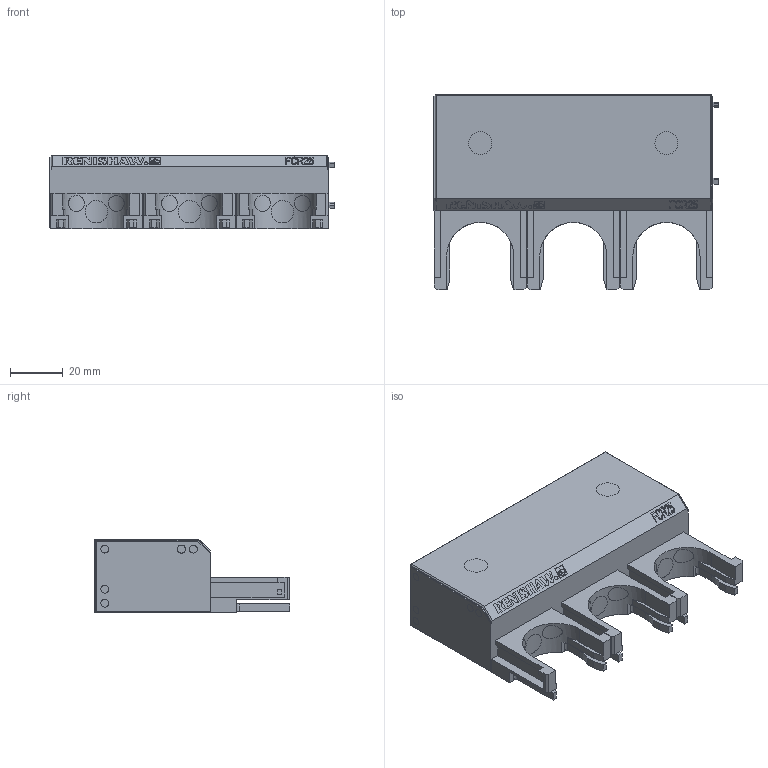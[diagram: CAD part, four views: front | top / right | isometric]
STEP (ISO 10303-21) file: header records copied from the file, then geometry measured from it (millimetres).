
FILE_DESCRIPTION(/* description */ (''),/* implementation_level */ '2;1');
FILE_NAME(/* name */ 'LA-2237-0928#-A.stp',/* time_stamp */ '2012-09-04T14:11:42+01:00',/* author */ (''),/* organization */ (''),/* preprocessor_version */ 'ST-DEVELOPER v11',/* originating_system */ 'SIEMENS PLM Software NX 7.5',/* authorisation */ '');
FILE_SCHEMA (('AUTOMOTIVE_DESIGN { 1 0 10303 214 1 1 1 1 }'));
Length unit declared in the file: millimetre
Products named in the file (1): rt133622tjor
Bounding box: 107.75 x 74 x 28 mm (x, y, z)
Volume: 142221.8 mm3; surface area: 25171.7 mm2
Topology: 1 solids, 1 shells, 260 faces, 795 edges, 603 vertices
Faces by surface type: plane 224, cylinder 36
Entity records: 11332 total; most frequent: CARTESIAN_POINT 2326, ORIENTED_EDGE 1590, DIRECTION 1377, EDGE_CURVE 795, LINE 621, VECTOR 621, VERTEX_POINT 603, AXIS2_PLACEMENT_3D 378
